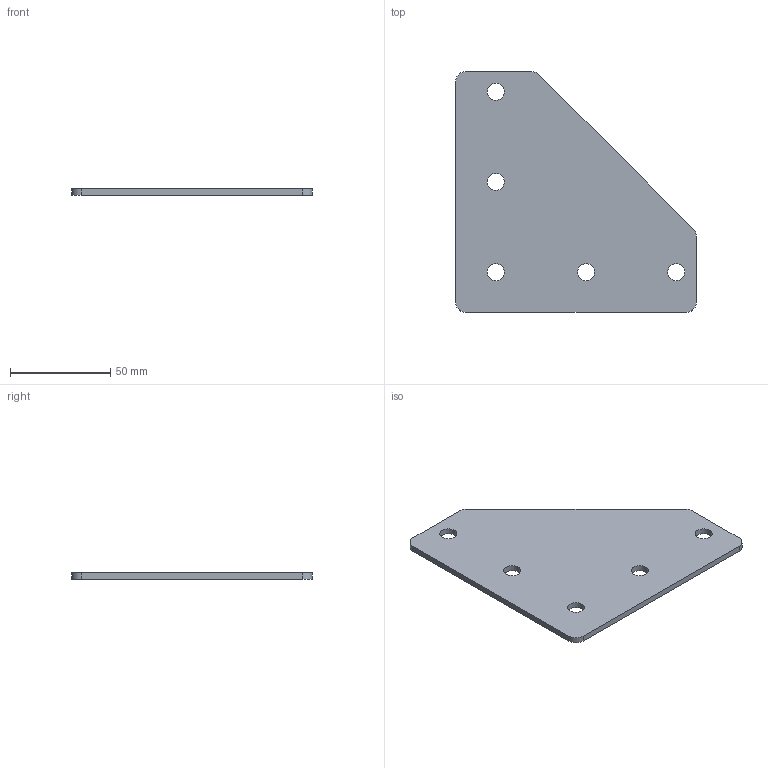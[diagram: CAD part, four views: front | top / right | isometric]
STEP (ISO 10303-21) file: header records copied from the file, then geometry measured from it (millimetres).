
FILE_DESCRIPTION(/* description */ ('CONNECTION PLATE 90° FOR 40x40'),/* implementation_level */ '2;1');
FILE_NAME(/* name */ '\\carryline.intra\privat\users\mathias\Desktop\Tillfälliga filer\100-5020.stp',/* time_stamp */ '2018-11-20T11:01:47+01:00',/* author */ ('PL'),/* organization */ ('CARRYLINE'),/* preprocessor_version */ 'ST-DEVELOPER v17',/* originating_system */ 'Autodesk Inventor 2018',/* authorisation */ '');
FILE_SCHEMA (('CONFIG_CONTROL_DESIGN','AUTOMOTIVE_DESIGN { 1 0 10303 214 3 1 1 }'));
Length unit declared in the file: millimetre
Products named in the file (1): 100-5020
Bounding box: 120 x 120 x 3 mm (x, y, z)
Volume: 32697.3 mm3; surface area: 23477.6 mm2
Topology: 1 solids, 1 shells, 17 faces, 50 edges, 35 vertices
Faces by surface type: cylinder 10, plane 7
Full cylindrical faces by diameter (mm): 8.5 x5
Entity records: 648 total; most frequent: DIRECTION 111, CARTESIAN_POINT 103, ORIENTED_EDGE 100, EDGE_CURVE 50, AXIS2_PLACEMENT_3D 43, VERTEX_POINT 35, EDGE_LOOP 27, LINE 25
